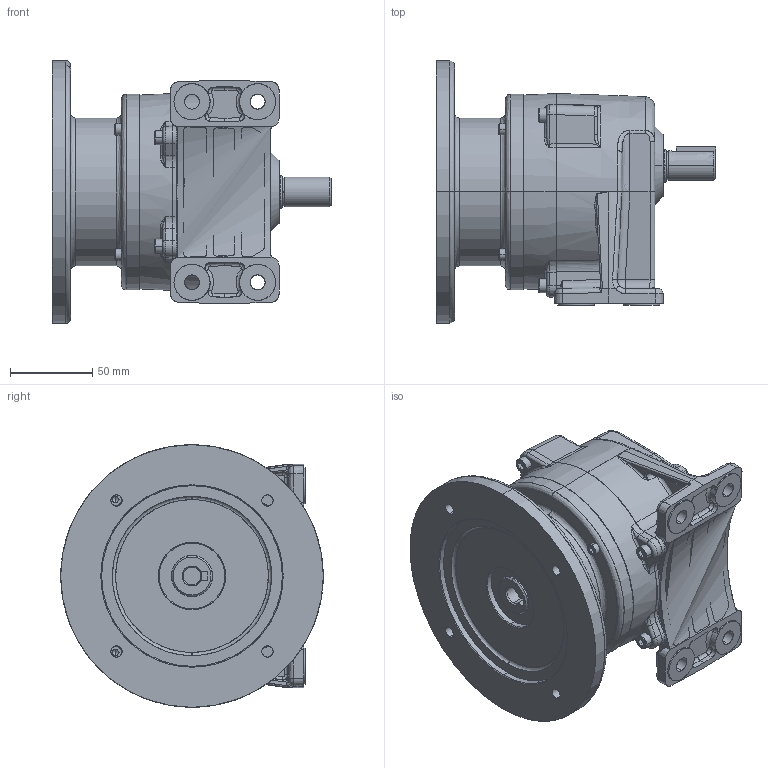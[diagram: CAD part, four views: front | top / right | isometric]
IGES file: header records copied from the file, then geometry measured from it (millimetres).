
Start section: SolidWorks IGES file using analytic representation for surfaces
Bounding box: 170 x 160 x 160 mm (x, y, z)
Surface area: 181468.4 mm2 (no closed solid volume)
Topology: 0 solids, 0 shells, 832 faces, 10723 edges, 10674 vertices
Faces by surface type: bspline 453, revolution 379
